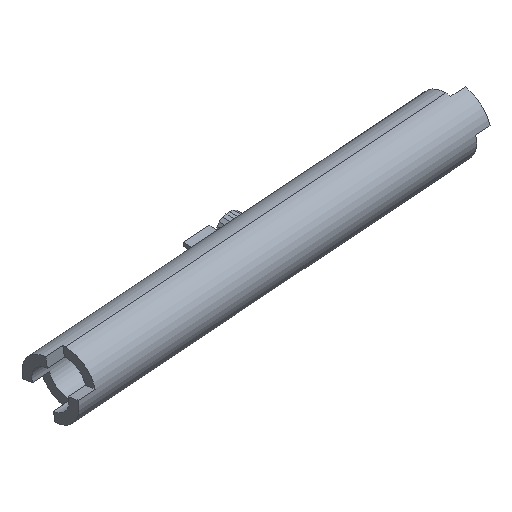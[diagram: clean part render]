
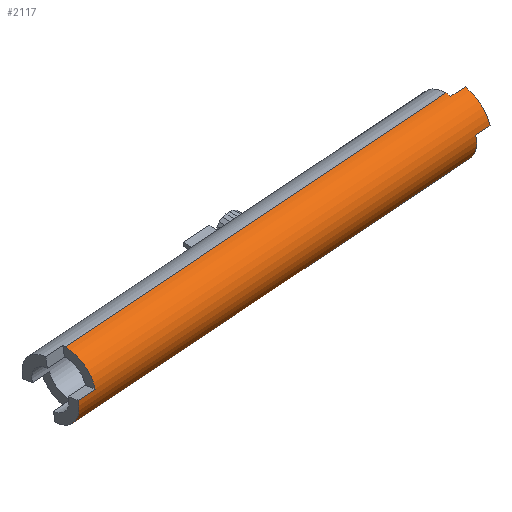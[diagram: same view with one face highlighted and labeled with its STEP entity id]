
A CAD part, isometric view. The second image highlights one B-rep face of the part: STEP entity #2117.
In plain terms, the highlighted cylindrical face has radius 5 mm (diameter 10 mm), a partial arc.
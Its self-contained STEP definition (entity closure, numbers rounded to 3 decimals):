
#15=CARTESIAN_POINT('',(302.92,0.,-164.221));
#16=DIRECTION('',(-0.997,0.,-0.077));
#17=DIRECTION('',(-0.076,-0.174,0.982));
#18=AXIS2_PLACEMENT_3D('',#15,#16,#17);
#43=CARTESIAN_POINT('',(302.92,0.,-164.221));
#44=DIRECTION('',(-0.997,0.,-0.077));
#45=DIRECTION('',(0.077,0.,-0.997));
#46=AXIS2_PLACEMENT_3D('',#43,#44,#45);
#73=DIRECTION('',(-0.997,0.,-0.077));
#74=VECTOR('',#73,67.104);
#75=CARTESIAN_POINT('',(302.534,0.,-159.236));
#76=LINE('',#75,#74);
#542=DIRECTION('',(0.997,0.,0.077));
#543=VECTOR('',#542,2.5);
#544=CARTESIAN_POINT('',(302.539,-0.868,
-159.311));
#545=LINE('',#544,#543);
#546=DIRECTION('',(-0.997,0.,-0.077));
#547=VECTOR('',#546,67.104);
#548=CARTESIAN_POINT('',(303.306,0.,-169.206));
#549=LINE('',#548,#547);
#550=CARTESIAN_POINT('',(236.016,0.,-169.404));
#551=DIRECTION('',(-0.997,0.,-0.077));
#552=DIRECTION('',(0.077,0.,-0.997));
#553=AXIS2_PLACEMENT_3D('',#550,#551,#552);
#555=DIRECTION('',(0.997,0.,0.077));
#556=VECTOR('',#555,3.);
#557=CARTESIAN_POINT('',(233.41,-0.436,
-174.602));
#558=LINE('',#557,#556);
#559=CARTESIAN_POINT('',(236.016,0.,-169.404));
#560=DIRECTION('',(-0.997,0.,-0.077));
#561=DIRECTION('',(-0.013,-0.985,0.173));
#562=AXIS2_PLACEMENT_3D('',#559,#560,#561);
#576=DIRECTION('',(0.997,0.,0.077));
#577=VECTOR('',#576,2.5);
#578=CARTESIAN_POINT('',(302.853,-4.924,-163.355));
#579=LINE('',#578,#577);
#589=CARTESIAN_POINT('',(305.412,0.,-164.028));
#590=DIRECTION('',(0.997,0.,0.077));
#591=DIRECTION('',(-0.076,-0.174,0.982));
#592=AXIS2_PLACEMENT_3D('',#589,#590,#591);
#668=DIRECTION('',(0.997,0.,0.077));
#669=VECTOR('',#668,3.);
#670=CARTESIAN_POINT('',(232.958,-4.924,-168.771));
#671=LINE('',#670,#669);
#681=CARTESIAN_POINT('',(233.025,0.,-169.636));
#682=DIRECTION('',(-0.997,0.,-0.077));
#683=DIRECTION('',(0.077,-0.087,-0.993));
#684=AXIS2_PLACEMENT_3D('',#681,#682,#683);
#1406=CARTESIAN_POINT('',(233.41,-0.436,
-174.602));
#1407=CARTESIAN_POINT('',(232.958,-4.924,
-168.771));
#1408=VERTEX_POINT('',#1406);
#1409=VERTEX_POINT('',#1407);
#1410=CARTESIAN_POINT('',(236.401,-0.436,
-174.371));
#1411=VERTEX_POINT('',#1410);
#1412=CARTESIAN_POINT('',(235.949,-4.924,
-168.539));
#1413=VERTEX_POINT('',#1412);
#1422=CARTESIAN_POINT('',(305.032,-0.868,
-159.118));
#1423=CARTESIAN_POINT('',(305.345,-4.924,
-163.162));
#1424=VERTEX_POINT('',#1422);
#1425=VERTEX_POINT('',#1423);
#1426=CARTESIAN_POINT('',(302.539,-0.868,
-159.311));
#1427=VERTEX_POINT('',#1426);
#1428=CARTESIAN_POINT('',(302.853,-4.924,
-163.355));
#1429=VERTEX_POINT('',#1428);
#1430=CARTESIAN_POINT('',(235.63,0.,-164.419));
#1431=VERTEX_POINT('',#1430);
#1432=CARTESIAN_POINT('',(236.402,0.,-174.389));
#1433=VERTEX_POINT('',#1432);
#1434=CARTESIAN_POINT('',(302.534,0.,-159.236));
#1435=VERTEX_POINT('',#1434);
#1436=CARTESIAN_POINT('',(303.306,0.,-169.206));
#1437=VERTEX_POINT('',#1436);
#2090=CARTESIAN_POINT('',(302.92,0.,-164.221));
#2091=DIRECTION('',(-0.997,0.,-0.077));
#2092=DIRECTION('',(-0.077,0.,0.997));
#2093=AXIS2_PLACEMENT_3D('',#2090,#2091,#2092);
#2094=CYLINDRICAL_SURFACE('',#2093,5.);
#2095=ORIENTED_EDGE('',*,*,#1775,.F.);
#2097=ORIENTED_EDGE('',*,*,#2096,.T.);
#2099=ORIENTED_EDGE('',*,*,#2098,.T.);
#2101=ORIENTED_EDGE('',*,*,#2100,.F.);
#2102=ORIENTED_EDGE('',*,*,#1795,.F.);
#2103=ORIENTED_EDGE('',*,*,#1872,.T.);
#2105=ORIENTED_EDGE('',*,*,#2104,.T.);
#2107=ORIENTED_EDGE('',*,*,#2106,.F.);
#2109=ORIENTED_EDGE('',*,*,#2108,.T.);
#2111=ORIENTED_EDGE('',*,*,#2110,.T.);
#2113=ORIENTED_EDGE('',*,*,#2112,.T.);
#2114=ORIENTED_EDGE('',*,*,#1860,.F.);
#2115=EDGE_LOOP('',(#2095,#2097,#2099,#2101,#2102,#2103,#2105,#2107,#2109,#2111,
#2113,#2114));
#2116=FACE_OUTER_BOUND('',#2115,.F.);
#2117=ADVANCED_FACE('',(#2116),#2094,.T.);
#19=CIRCLE('',#18,5.);
#47=CIRCLE('',#46,5.);
#554=CIRCLE('',#553,5.);
#563=CIRCLE('',#562,5.);
#593=CIRCLE('',#592,5.);
#685=CIRCLE('',#684,5.);
#1775=EDGE_CURVE('',#1427,#1435,#19,.T.);
#1795=EDGE_CURVE('',#1437,#1429,#47,.T.);
#1860=EDGE_CURVE('',#1435,#1431,#76,.T.);
#1872=EDGE_CURVE('',#1437,#1433,#549,.T.);
#2096=EDGE_CURVE('',#1427,#1424,#545,.T.);
#2098=EDGE_CURVE('',#1424,#1425,#593,.T.);
#2100=EDGE_CURVE('',#1429,#1425,#579,.T.);
#2104=EDGE_CURVE('',#1433,#1411,#554,.T.);
#2106=EDGE_CURVE('',#1408,#1411,#558,.T.);
#2108=EDGE_CURVE('',#1408,#1409,#685,.T.);
#2110=EDGE_CURVE('',#1409,#1413,#671,.T.);
#2112=EDGE_CURVE('',#1413,#1431,#563,.T.);
